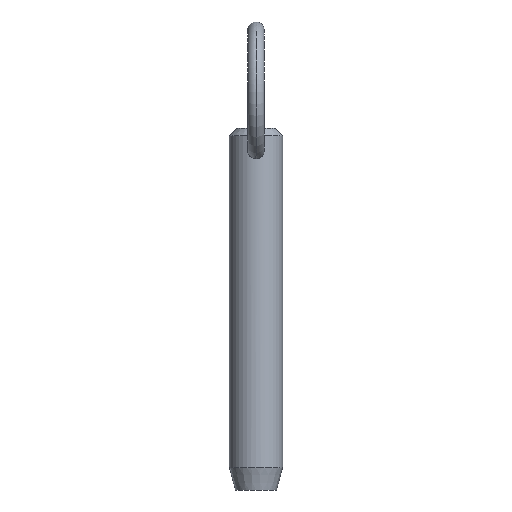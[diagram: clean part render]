
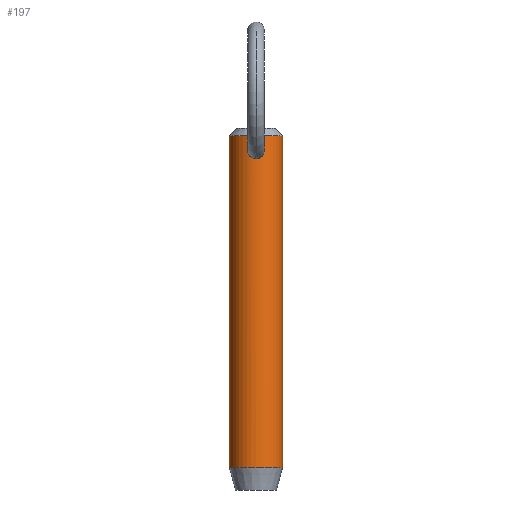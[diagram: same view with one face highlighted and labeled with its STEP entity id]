
A CAD part, front view. The second image highlights one B-rep face of the part: STEP entity #197.
In plain terms, the highlighted cylindrical face has radius 4.76 mm (diameter 9.52 mm), a partial arc.
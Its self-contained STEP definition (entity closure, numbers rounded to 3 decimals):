
#2 = FACE_BOUND ( 'NONE', #473, .T. ) ;
#3 = CARTESIAN_POINT ( 'NONE',  ( 0.409, -4.743, 49.878 ) ) ;
#8 = CARTESIAN_POINT ( 'NONE',  ( 1.344, -4.567, 47.439 ) ) ;
#9 = DIRECTION ( 'NONE',  ( -1., 0., 0. ) ) ;
#13 = DIRECTION ( 'NONE',  ( -1., 0., 0. ) ) ;
#17 = DIRECTION ( 'NONE',  ( 0., 0., -1. ) ) ;
#21 = ORIENTED_EDGE ( 'NONE', *, *, #527, .T. ) ;
#22 = CARTESIAN_POINT ( 'NONE',  ( -1.508, -4.515, 48.037 ) ) ;
#34 = CARTESIAN_POINT ( 'NONE',  ( 0.797, -4.697, 46.829 ) ) ;
#43 = CARTESIAN_POINT ( 'NONE',  ( 0.209, -4.756, 49.934 ) ) ;
#45 = CARTESIAN_POINT ( 'NONE',  ( 0.925, -4.67, 49.539 ) ) ;
#50 = CARTESIAN_POINT ( 'NONE',  ( 0., 0., 45.7 ) ) ;
#53 = CYLINDRICAL_SURFACE ( 'NONE', #114, 4.76 ) ;
#55 = ORIENTED_EDGE ( 'NONE', *, *, #500, .T. ) ;
#59 = CIRCLE ( 'NONE', #79, 4.76 ) ;
#63 = CARTESIAN_POINT ( 'NONE',  ( -0.932, -4.67, 49.545 ) ) ;
#66 = CARTESIAN_POINT ( 'NONE',  ( -0.409, -4.743, 49.878 ) ) ;
#68 = CARTESIAN_POINT ( 'NONE',  ( -1.353, -4.564, 47.435 ) ) ;
#79 = AXIS2_PLACEMENT_3D ( 'NONE', #147, #17, #288 ) ;
#87 = CARTESIAN_POINT ( 'NONE',  ( 1.19, -4.611, 49.224 ) ) ;
#90 = VERTEX_POINT ( 'NONE', #173 ) ;
#98 = CARTESIAN_POINT ( 'NONE',  ( 0.411, -4.743, 46.677 ) ) ;
#99 = ORIENTED_EDGE ( 'NONE', *, *, #201, .F. ) ;
#101 = CARTESIAN_POINT ( 'NONE',  ( -0.961, -4.663, 46.957 ) ) ;
#103 = CARTESIAN_POINT ( 'NONE',  ( -1.292, -4.582, 49.045 ) ) ;
#106 = CARTESIAN_POINT ( 'NONE',  ( -4.76, 0., 50.75 ) ) ;
#111 = CARTESIAN_POINT ( 'NONE',  ( -4.76, 0., -8.7 ) ) ;
#112 = CARTESIAN_POINT ( 'NONE',  ( -0.208, -4.757, 49.934 ) ) ;
#114 = AXIS2_PLACEMENT_3D ( 'NONE', #50, #228, #9 ) ;
#129 = CARTESIAN_POINT ( 'NONE',  ( 1.478, -4.525, 48.452 ) ) ;
#131 = LINE ( 'NONE', #313, #453 ) ;
#133 = CARTESIAN_POINT ( 'NONE',  ( 0.104, -4.76, 49.948 ) ) ;
#142 = EDGE_CURVE ( 'NONE', #387, #488, #303, .T. ) ;
#145 = DIRECTION ( 'NONE',  ( 0., 0., -1. ) ) ;
#147 = CARTESIAN_POINT ( 'NONE',  ( 0., 0., 50.75 ) ) ;
#152 = CARTESIAN_POINT ( 'NONE',  ( -1.483, -4.524, 47.826 ) ) ;
#170 = B_SPLINE_CURVE_WITH_KNOTS ( 'NONE', 3,
 ( #285, #244, #315, #474, #239, #101, #191, #202, #68, #152, #22, #519, #510, #103, #319, #63, #250, #281, #66, #112, #395, #431 ),
 .UNSPECIFIED., .F., .F.,
 ( 4, 2, 2, 2, 2, 2, 2, 2, 2, 2, 4 ),
 ( 0.009, 0.01, 0.01, 0.011, 0.011, 0.012, 0.012, 0.013, 0.014, 0.014, 0.014 ),
 .UNSPECIFIED. ) ;
#173 = CARTESIAN_POINT ( 'NONE',  ( 0., -4.76, 46.626 ) ) ;
#175 = B_SPLINE_CURVE_WITH_KNOTS ( 'NONE', 3,
 ( #346, #133, #43, #3, #418, #417, #300, #45, #299, #87, #494, #262, #341, #129, #463, #219, #236, #422, #221, #268, #8, #293, #335, #207, #34, #381, #98, #187, #366, #437 ),
 .UNSPECIFIED., .F., .F.,
 ( 4, 2, 2, 2, 2, 2, 2, 2, 2, 2, 2, 2, 2, 2, 4 ),
 ( 0.004, 0.005, 0.005, 0.005, 0.006, 0.006, 0.007, 0.007, 0.007, 0.007, 0.008, 0.008, 0.009, 0.009, 0.009 ),
 .UNSPECIFIED. ) ;
#180 = VERTEX_POINT ( 'NONE', #497 ) ;
#187 = CARTESIAN_POINT ( 'NONE',  ( 0.208, -4.757, 46.636 ) ) ;
#191 = CARTESIAN_POINT ( 'NONE',  ( -1.039, -4.646, 47.026 ) ) ;
#197 = ADVANCED_FACE ( 'NONE', ( #498, #2 ), #53, .T. ) ;
#200 = CARTESIAN_POINT ( 'NONE',  ( 4.76, 0., 50.75 ) ) ;
#201 = EDGE_CURVE ( 'NONE', #435, #488, #287, .T. ) ;
#202 = CARTESIAN_POINT ( 'NONE',  ( -1.247, -4.596, 47.252 ) ) ;
#207 = CARTESIAN_POINT ( 'NONE',  ( 0.97, -4.662, 46.95 ) ) ;
#219 = CARTESIAN_POINT ( 'NONE',  ( 1.503, -4.517, 48.14 ) ) ;
#221 = CARTESIAN_POINT ( 'NONE',  ( 1.45, -4.534, 47.728 ) ) ;
#223 = ORIENTED_EDGE ( 'NONE', *, *, #343, .T. ) ;
#228 = DIRECTION ( 'NONE',  ( 0., 0., -1. ) ) ;
#236 = CARTESIAN_POINT ( 'NONE',  ( 1.499, -4.518, 48.037 ) ) ;
#239 = CARTESIAN_POINT ( 'NONE',  ( -0.793, -4.694, 46.839 ) ) ;
#242 = ORIENTED_EDGE ( 'NONE', *, *, #142, .T. ) ;
#244 = CARTESIAN_POINT ( 'NONE',  ( -0.21, -4.76, 46.626 ) ) ;
#250 = CARTESIAN_POINT ( 'NONE',  ( -0.777, -4.7, 49.685 ) ) ;
#262 = CARTESIAN_POINT ( 'NONE',  ( 1.404, -4.548, 48.753 ) ) ;
#268 = CARTESIAN_POINT ( 'NONE',  ( 1.385, -4.554, 47.532 ) ) ;
#281 = CARTESIAN_POINT ( 'NONE',  ( -0.504, -4.734, 49.838 ) ) ;
#285 = CARTESIAN_POINT ( 'NONE',  ( 0., -4.76, 46.626 ) ) ;
#287 = LINE ( 'NONE', #423, #333 ) ;
#288 = DIRECTION ( 'NONE',  ( 1., 0., 0. ) ) ;
#293 = CARTESIAN_POINT ( 'NONE',  ( 1.24, -4.596, 47.26 ) ) ;
#295 = AXIS2_PLACEMENT_3D ( 'NONE', #499, #309, #13 ) ;
#299 = CARTESIAN_POINT ( 'NONE',  ( 0.997, -4.655, 49.464 ) ) ;
#300 = CARTESIAN_POINT ( 'NONE',  ( 0.77, -4.698, 49.675 ) ) ;
#303 = CIRCLE ( 'NONE', #295, 4.76 ) ;
#309 = DIRECTION ( 'NONE',  ( 0., 0., 1. ) ) ;
#313 = CARTESIAN_POINT ( 'NONE',  ( -4.76, 0., 45.7 ) ) ;
#315 = CARTESIAN_POINT ( 'NONE',  ( -0.416, -4.746, 46.667 ) ) ;
#319 = CARTESIAN_POINT ( 'NONE',  ( -1.19, -4.611, 49.224 ) ) ;
#333 = VECTOR ( 'NONE', #145, 1000. ) ;
#335 = CARTESIAN_POINT ( 'NONE',  ( 1.178, -4.613, 47.176 ) ) ;
#341 = CARTESIAN_POINT ( 'NONE',  ( 1.434, -4.539, 48.654 ) ) ;
#343 = EDGE_CURVE ( 'NONE', #180, #90, #175, .T. ) ;
#346 = CARTESIAN_POINT ( 'NONE',  ( 0., -4.76, 49.948 ) ) ;
#366 = CARTESIAN_POINT ( 'NONE',  ( 0.105, -4.76, 46.626 ) ) ;
#372 = EDGE_LOOP ( 'NONE', ( #99, #469, #21, #242 ) ) ;
#381 = CARTESIAN_POINT ( 'NONE',  ( 0.512, -4.733, 46.708 ) ) ;
#387 = VERTEX_POINT ( 'NONE', #111 ) ;
#395 = CARTESIAN_POINT ( 'NONE',  ( -0.103, -4.76, 49.948 ) ) ;
#404 = DIRECTION ( 'NONE',  ( 0., 0., -1. ) ) ;
#407 = CARTESIAN_POINT ( 'NONE',  ( 4.76, 0., -8.7 ) ) ;
#417 = CARTESIAN_POINT ( 'NONE',  ( 0.687, -4.711, 49.735 ) ) ;
#418 = CARTESIAN_POINT ( 'NONE',  ( 0.506, -4.734, 49.837 ) ) ;
#422 = CARTESIAN_POINT ( 'NONE',  ( 1.473, -4.526, 47.831 ) ) ;
#423 = CARTESIAN_POINT ( 'NONE',  ( 4.76, 0., 45.7 ) ) ;
#427 = VERTEX_POINT ( 'NONE', #106 ) ;
#429 = EDGE_CURVE ( 'NONE', #435, #427, #59, .T. ) ;
#431 = CARTESIAN_POINT ( 'NONE',  ( 0., -4.76, 49.948 ) ) ;
#435 = VERTEX_POINT ( 'NONE', #200 ) ;
#437 = CARTESIAN_POINT ( 'NONE',  ( 0., -4.76, 46.626 ) ) ;
#453 = VECTOR ( 'NONE', #404, 1000. ) ;
#463 = CARTESIAN_POINT ( 'NONE',  ( 1.492, -4.52, 48.348 ) ) ;
#469 = ORIENTED_EDGE ( 'NONE', *, *, #429, .T. ) ;
#473 = EDGE_LOOP ( 'NONE', ( #223, #55 ) ) ;
#474 = CARTESIAN_POINT ( 'NONE',  ( -0.703, -4.709, 46.789 ) ) ;
#488 = VERTEX_POINT ( 'NONE', #407 ) ;
#494 = CARTESIAN_POINT ( 'NONE',  ( 1.293, -4.582, 49.042 ) ) ;
#497 = CARTESIAN_POINT ( 'NONE',  ( 0., -4.76, 49.948 ) ) ;
#498 = FACE_OUTER_BOUND ( 'NONE', #372, .T. ) ;
#499 = CARTESIAN_POINT ( 'NONE',  ( 0., 0., -8.7 ) ) ;
#500 = EDGE_CURVE ( 'NONE', #90, #180, #170, .T. ) ;
#510 = CARTESIAN_POINT ( 'NONE',  ( -1.441, -4.537, 48.657 ) ) ;
#519 = CARTESIAN_POINT ( 'NONE',  ( -1.487, -4.522, 48.453 ) ) ;
#527 = EDGE_CURVE ( 'NONE', #427, #387, #131, .T. ) ;
